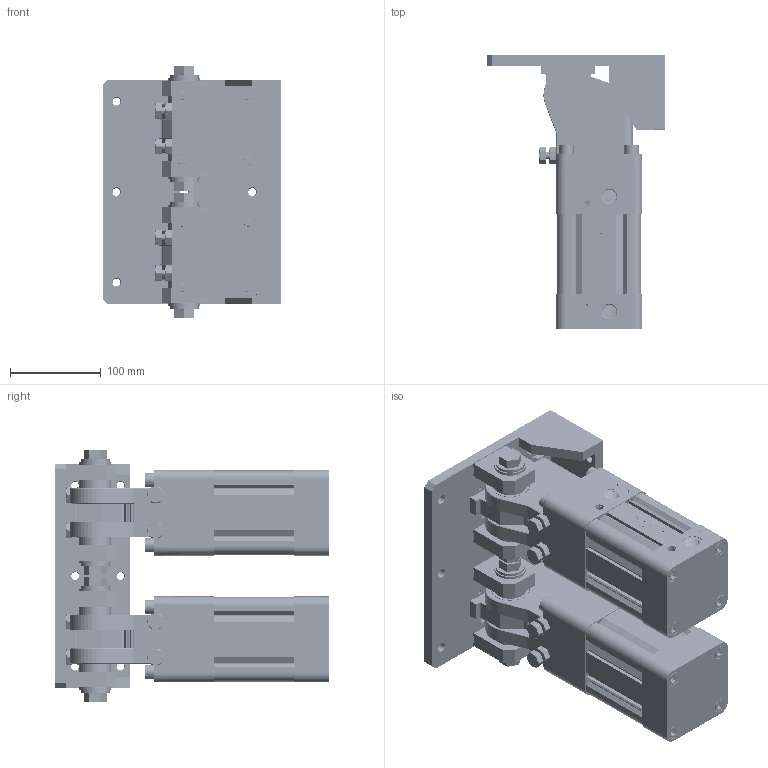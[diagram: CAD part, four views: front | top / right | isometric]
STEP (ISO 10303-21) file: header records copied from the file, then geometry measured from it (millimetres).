
FILE_DESCRIPTION(/* description */ (''),/* implementation_level */ '2;1');
FILE_NAME(/* name */ '2-DHR2C-80M50PPV-ZG-LB.stp',/* time_stamp */ '2025-06-12T08:25:10+08:00',/* author */ (''),/* organization */ (''),/* preprocessor_version */ 'ST-DEVELOPER v15',/* originating_system */ 'SIEMENS PLM Software NX 10.0',/* authorisation */ '');
FILE_SCHEMA (('AP203_CONFIGURATION_CONTROLLED_3D_DESIGN_OF_MECHANICAL_PARTS_AND_ASSEMBLIES_MIM_LF { 1 0 10303 403 2 1 2}'));
Products named in the file (1): Admi31B8C635pvpr
Bounding box: 197 x 302 x 278 mm (x, y, z)
Volume: 5182426.7 mm3; surface area: 934399.2 mm2
Topology: 124 solids, 132 shells, 4149 faces, 10388 edges, 6851 vertices
Faces by surface type: plane 1956, cylinder 1022, extrusion 610, cone 363, bspline 156, torus 42
Full cylindrical faces by diameter (mm): 0.995 x2, 1.021 x2, 3 x4, 3.3 x4, 4.2 x8, 5 x18, 5.4 x4, 5.5 x8, 6 x14, 6.1 x12, 6.4 x10, 6.5 x18, 6.8 x4, 8 x32, 8.5 x47, 8.7 x8, 9 x4, 9.75 x14, 10 x189, 10.5 x10, 10.7 x8, 12 x4, 13 x12, 14 x16, 15 x16, 16 x8, 16.3 x16, 16.5 x4, 20 x20, 23 x4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
Entity records: 301486 total; most frequent: CARTESIAN_POINT 215894, ORIENTED_EDGE 17656, DIRECTION 14946, EDGE_CURVE 8828, VERTEX_POINT 6184, EDGE_LOOP 5210, AXIS2_PLACEMENT_3D 5110, VECTOR 4726
